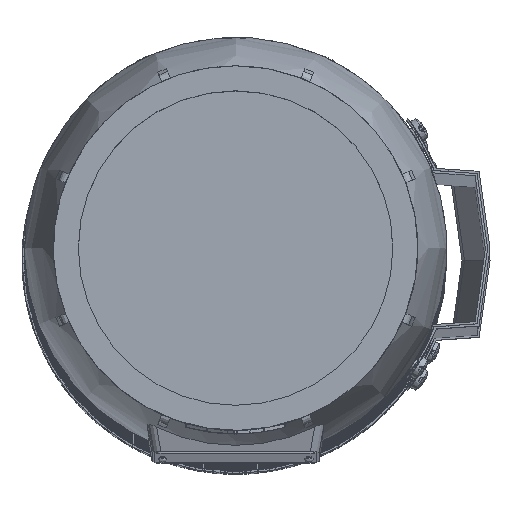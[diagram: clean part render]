
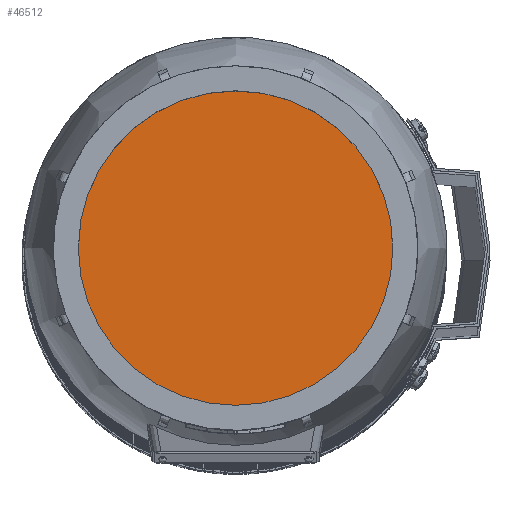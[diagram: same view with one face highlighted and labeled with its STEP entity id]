
A CAD part, top view. The second image highlights one B-rep face of the part: STEP entity #46512.
In plain terms, the highlighted planar face has unit normal (0, 0, 1) as drawn and (0, 1, 0) by its records, which use the part's own axes.
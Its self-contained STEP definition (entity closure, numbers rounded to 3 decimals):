
#9845=ORIENTED_EDGE('',*,*,#23901,.F.);
#23901=EDGE_CURVE('',#30929,#30929,#35659,.T.);
#30929=VERTEX_POINT('',#67159);
#35659=CIRCLE('',#49051,67.736);
#37782=EDGE_LOOP('',(#9845));
#41136=FACE_BOUND('',#37782,.T.);
#44508=PLANE('',#49050);
#46512=ADVANCED_FACE('',(#41136),#44508,.F.);
#49050=AXIS2_PLACEMENT_3D('',#67157,#53654,#53655);
#49051=AXIS2_PLACEMENT_3D('',#67158,#53656,#53657);
#53654=DIRECTION('',(0.,-1.,0.));
#53655=DIRECTION('',(0.,0.,-1.));
#53656=DIRECTION('',(0.,-1.,0.));
#53657=DIRECTION('',(0.,0.,-1.));
#67157=CARTESIAN_POINT('',(0.,154.,0.));
#67158=CARTESIAN_POINT('',(0.,154.,0.));
#67159=CARTESIAN_POINT('',(0.,154.,-67.736));
